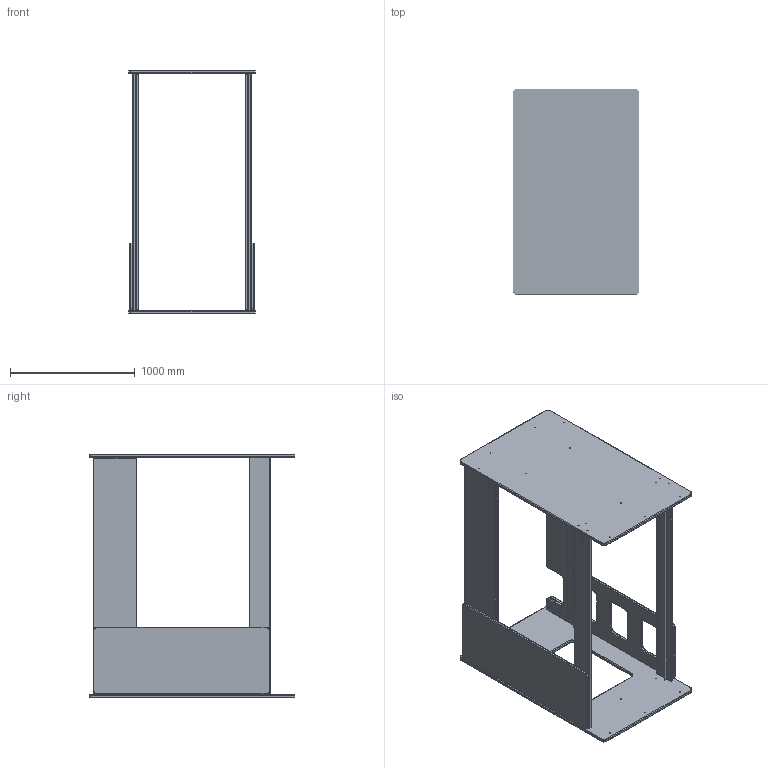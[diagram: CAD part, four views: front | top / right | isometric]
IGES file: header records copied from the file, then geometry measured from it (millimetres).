
Start section: Missler Software 3 rue Hermes, EUROPARC, 31520 Ramonville-Saint-Agne, France Tel   : +33 (0)5 61 00 03 00 Fax   : +33 (0)5 61 00 03 03 Email : sup.solid@topsolid.com
Global section: file name: H:\Dossier RNR\Maquette numérique\Lit DAVID\lit DAVID.igs; native system: TopSolid v613200 Missler Software; preprocessor: IGES preprocessor v100000; author: Laurent; date: 130328.141547; units: millimetre
Bounding box: 1014 x 1650 x 1950 mm (x, y, z)
Surface area: 15009289.1 mm2 (no closed solid volume)
Topology: 0 solids, 0 shells, 2302 faces, 24493 edges, 23997 vertices
Faces by surface type: bspline 2302
